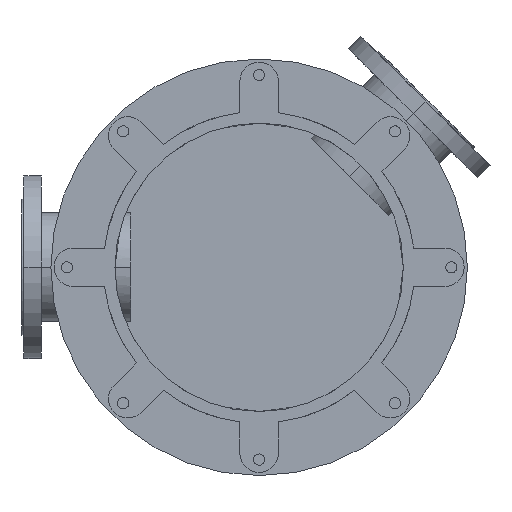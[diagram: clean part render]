
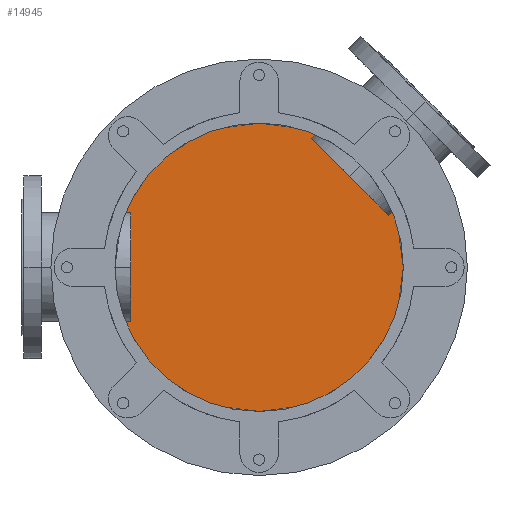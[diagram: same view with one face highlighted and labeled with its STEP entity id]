
A CAD part, front view. The second image highlights one B-rep face of the part: STEP entity #14945.
In plain terms, the highlighted planar face has unit normal (0, -1, 0).
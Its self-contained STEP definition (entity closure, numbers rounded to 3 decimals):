
#3896=CARTESIAN_POINT('',(0.,1172.,0.));
#3897=DIRECTION('',(0.,-1.,0.));
#3898=DIRECTION('',(0.,0.,1.));
#3899=AXIS2_PLACEMENT_3D('',#3896,#3897,#3898);
#4023=CARTESIAN_POINT('',(0.,1172.,0.));
#4024=DIRECTION('',(0.,-1.,0.));
#4025=DIRECTION('',(0.,0.,-1.));
#4026=AXIS2_PLACEMENT_3D('',#4023,#4024,#4025);
#9167=CARTESIAN_POINT('',(0.,1172.,240.));
#9168=CARTESIAN_POINT('',(0.,1172.,-240.));
#9169=VERTEX_POINT('',#9167);
#9170=VERTEX_POINT('',#9168);
#14935=CARTESIAN_POINT('',(0.,1172.,0.));
#14936=DIRECTION('',(0.,1.,0.));
#14937=DIRECTION('',(0.,0.,-1.));
#14938=AXIS2_PLACEMENT_3D('',#14935,#14936,#14937);
#14939=PLANE('',#14938);
#14940=ORIENTED_EDGE('',*,*,#14919,.F.);
#14942=ORIENTED_EDGE('',*,*,#14941,.F.);
#14943=EDGE_LOOP('',(#14940,#14942));
#14944=FACE_OUTER_BOUND('',#14943,.F.);
#14945=ADVANCED_FACE('',(#14944),#14939,.F.);
#3900=CIRCLE('',#3899,240.);
#4027=CIRCLE('',#4026,240.);
#14919=EDGE_CURVE('',#9169,#9170,#3900,.T.);
#14941=EDGE_CURVE('',#9170,#9169,#4027,.T.);
